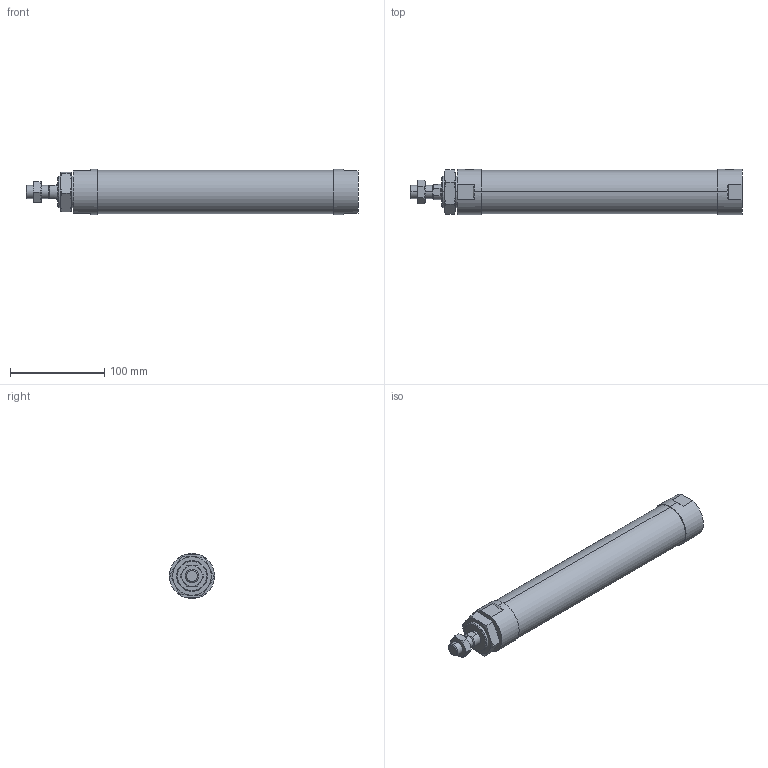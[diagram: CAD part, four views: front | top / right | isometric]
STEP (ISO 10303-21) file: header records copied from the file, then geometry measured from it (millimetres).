
FILE_DESCRIPTION (( 'STEP AP203' ), '1' );
FILE_NAME ('JGND2-40-200-N.STEP', '2016-08-04T03:14:20', ( '' ), ( '' ), 'SwSTEP 2.0', 'SolidWorks 2014', '' );
FILE_SCHEMA (( 'CONFIG_CONTROL_DESIGN' ));
Length unit declared in the file: millimetre
Products named in the file (4): J#2-40-200(P); JGND2-40-200-N
Assembly tree (3 placements, depth 2):
  JGND2-40-200-N
    J#2-40-200(P)
    (unnamed)
    (unnamed)
Bounding box: 353 x 48 x 48 mm (x, y, z)
Volume: 536565.7 mm3; surface area: 57742.1 mm2
Topology: 3 solids, 3 shells, 89 faces, 200 edges, 119 vertices
Faces by surface type: plane 32, torus 24, cylinder 20, cone 13
Entity records: 3305 total; most frequent: CARTESIAN_POINT 1001, DIRECTION 395, ORIENTED_EDGE 392, EDGE_CURVE 196, AXIS2_PLACEMENT_3D 167, VERTEX_POINT 119, EDGE_LOOP 99, FACE_OUTER_BOUND 89
